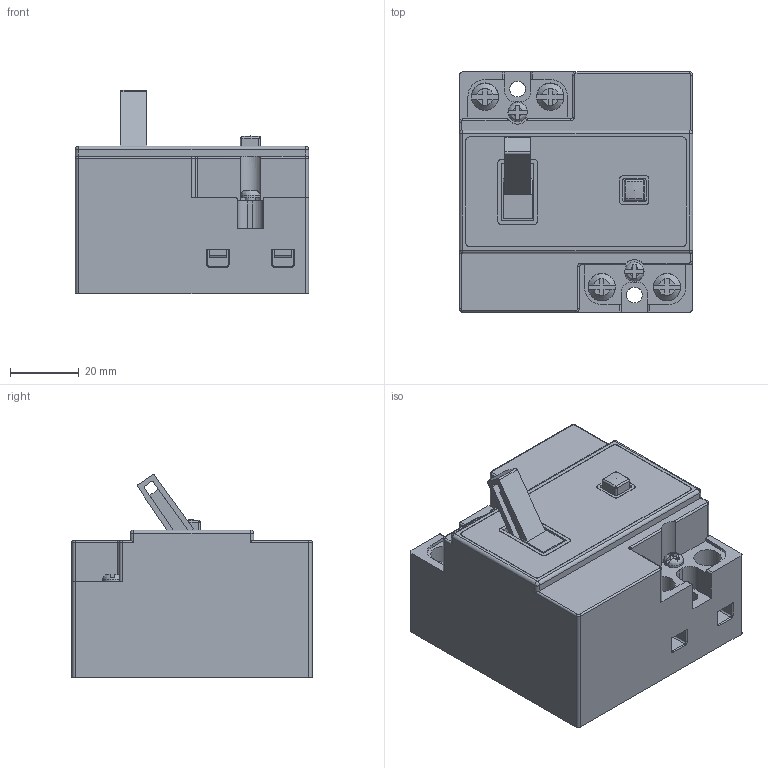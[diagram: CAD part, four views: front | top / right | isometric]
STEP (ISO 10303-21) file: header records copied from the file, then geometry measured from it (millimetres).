
FILE_DESCRIPTION(/* description */ (''),/* implementation_level */ '2;1');
FILE_NAME(/* name */ '05_kd-lb2122j_141029.stp',/* time_stamp */ '2014-10-29T09:46:47+09:00',/* author */ (''),/* organization */ (''),/* preprocessor_version */ 'ST-DEVELOPER v14',/* originating_system */ 'SIEMENS PLM Software NX 8.0',/* authorisation */ '');
FILE_SCHEMA (('AP203_CONFIGURATION_CONTROLLED_3D_DESIGN_OF_MECHANICAL_PARTS_AND_ASSEMBLIES_MIM_LF { 1 0 10303 403 2 1 2}'));
Length unit declared in the file: millimetre
Products named in the file (1): as1808DC4DA56ih0
Bounding box: 68 x 70 x 59.22 mm (x, y, z)
Volume: 181860.5 mm3; surface area: 25885.2 mm2
Topology: 1 solids, 1 shells, 367 faces, 953 edges, 608 vertices
Faces by surface type: plane 222, cylinder 106, torus 14, sphere 9, cone 8, bspline 8
Full cylindrical faces by diameter (mm): 3 x2, 4.6 x2, 5.7 x2, 7.9 x4, 8 x4
Entity records: 11370 total; most frequent: CARTESIAN_POINT 2384, DIRECTION 1848, ORIENTED_EDGE 1840, EDGE_CURVE 920, AXIS2_PLACEMENT_3D 636, VERTEX_POINT 596, LINE 576, VECTOR 576
